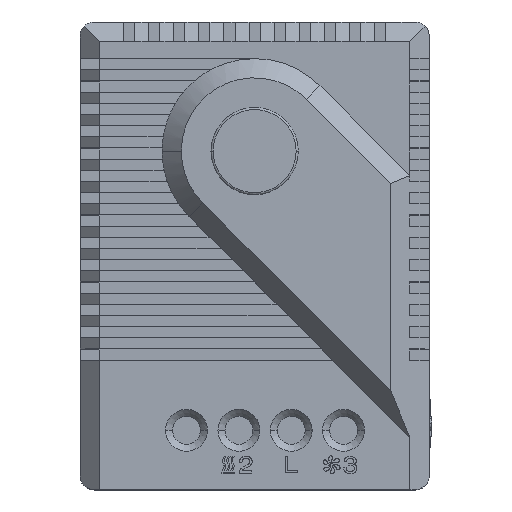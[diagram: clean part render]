
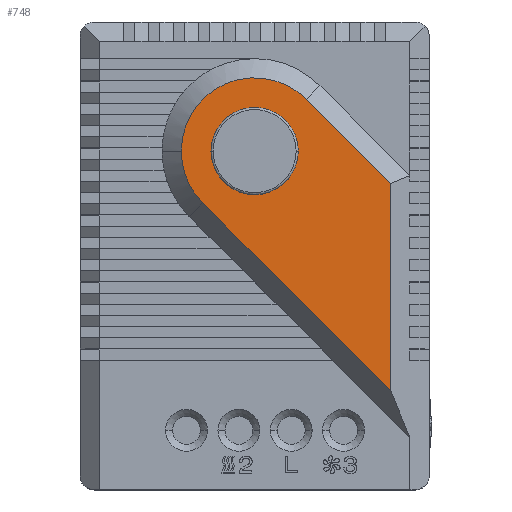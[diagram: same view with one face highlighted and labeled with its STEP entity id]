
A CAD part, top view. The second image highlights one B-rep face of the part: STEP entity #748.
In plain terms, the highlighted planar face has unit normal (0, 0, 1).
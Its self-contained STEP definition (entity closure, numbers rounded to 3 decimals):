
#748 = ADVANCED_FACE ( 'NONE', ( #9368, #9371 ), #4155, .T. ) ;
#1586 = ORIENTED_EDGE ( 'NONE', *, *, #22571, .F. ) ;
#1587 = ORIENTED_EDGE ( 'NONE', *, *, #4343, .F. ) ;
#1588 = ORIENTED_EDGE ( 'NONE', *, *, #22574, .T. ) ;
#1589 = ORIENTED_EDGE ( 'NONE', *, *, #4326, .T. ) ;
#1590 = ORIENTED_EDGE ( 'NONE', *, *, #22553, .T. ) ;
#1591 = ORIENTED_EDGE ( 'NONE', *, *, #22547, .T. ) ;
#1592 = ORIENTED_EDGE ( 'NONE', *, *, #22568, .F. ) ;
#2430 = AXIS2_PLACEMENT_3D ( 'NONE', #4151, #4146, #4158 ) ;
#2553 = AXIS2_PLACEMENT_3D ( 'NONE', #12421, #12422, #12423 ) ;
#2564 = AXIS2_PLACEMENT_3D ( 'NONE', #12465, #12467, #12469 ) ;
#2738 = AXIS2_PLACEMENT_3D ( 'NONE', #12425, #12426, #12427 ) ;
#2742 = AXIS2_PLACEMENT_3D ( 'NONE', #12518, #12519, #12521 ) ;
#4146 = DIRECTION ( 'NONE',  ( 0., 0., 1. ) ) ;
#4151 = CARTESIAN_POINT ( 'NONE',  ( 25., 32., 34. ) ) ;
#4155 = PLANE ( 'NONE',  #2430 ) ;
#4158 = DIRECTION ( 'NONE',  ( 1., 0., 0. ) ) ;
#4326 = EDGE_CURVE ( 'NONE', #6194, #21391, #10319, .T. ) ;
#4343 = EDGE_CURVE ( 'NONE', #5219, #5961, #10342, .T. ) ;
#5219 = VERTEX_POINT ( 'NONE', #13027 ) ;
#5244 = VERTEX_POINT ( 'NONE', #13070 ) ;
#5252 = VERTEX_POINT ( 'NONE', #13083 ) ;
#5256 = VERTEX_POINT ( 'NONE', #13090 ) ;
#5961 = VERTEX_POINT ( 'NONE', #7208 ) ;
#6194 = VERTEX_POINT ( 'NONE', #7441 ) ;
#7208 = CARTESIAN_POINT ( 'NONE',  ( 18.75, 32., 34. ) ) ;
#7441 = CARTESIAN_POINT ( 'NONE',  ( 14.5, 32., 34. ) ) ;
#8768 = LINE ( 'NONE', #12396, #8771 ) ;
#8771 = VECTOR ( 'NONE', #12399, 1000. ) ;
#8778 = CIRCLE ( 'NONE', #2738, 10.5 ) ;
#8796 = LINE ( 'NONE', #12485, #8801 ) ;
#8801 = VECTOR ( 'NONE', #12501, 1000. ) ;
#8804 = CIRCLE ( 'NONE', #2742, 6.25 ) ;
#8811 = LINE ( 'NONE', #12527, #8817 ) ;
#8817 = VECTOR ( 'NONE', #12530, 1000. ) ;
#9368 = FACE_OUTER_BOUND ( 'NONE', #24806, .T. ) ;
#9371 = FACE_BOUND ( 'NONE', #24807, .T. ) ;
#10319 = CIRCLE ( 'NONE', #2553, 10.5 ) ;
#10342 = CIRCLE ( 'NONE', #2564, 6.25 ) ;
#11470 = CARTESIAN_POINT ( 'NONE',  ( 17.575, 24.575, 34. ) ) ;
#12396 = CARTESIAN_POINT ( 'NONE',  ( 32.425, 39.425, 34. ) ) ;
#12399 = DIRECTION ( 'NONE',  ( -0.707, 0.707, 0. ) ) ;
#12421 = CARTESIAN_POINT ( 'NONE',  ( 25., 32., 34. ) ) ;
#12422 = DIRECTION ( 'NONE',  ( 0., 0., 1. ) ) ;
#12423 = DIRECTION ( 'NONE',  ( 1., 0., 0. ) ) ;
#12425 = CARTESIAN_POINT ( 'NONE',  ( 25., 32., 34. ) ) ;
#12426 = DIRECTION ( 'NONE',  ( 0., 0., 1. ) ) ;
#12427 = DIRECTION ( 'NONE',  ( 1., 0., 0. ) ) ;
#12465 = CARTESIAN_POINT ( 'NONE',  ( 25., 32., 34. ) ) ;
#12467 = DIRECTION ( 'NONE',  ( 0., 0., 1. ) ) ;
#12469 = DIRECTION ( 'NONE',  ( 1., 0., 0. ) ) ;
#12485 = CARTESIAN_POINT ( 'NONE',  ( 44.5, 50.501, 34. ) ) ;
#12501 = DIRECTION ( 'NONE',  ( 0., -1., 0. ) ) ;
#12518 = CARTESIAN_POINT ( 'NONE',  ( 25., 32., 34. ) ) ;
#12519 = DIRECTION ( 'NONE',  ( 0., 0., 1. ) ) ;
#12521 = DIRECTION ( 'NONE',  ( 1., 0., 0. ) ) ;
#12527 = CARTESIAN_POINT ( 'NONE',  ( 49.195, -7.044, 34. ) ) ;
#12530 = DIRECTION ( 'NONE',  ( 0.707, -0.707, 0. ) ) ;
#13027 = CARTESIAN_POINT ( 'NONE',  ( 31.25, 32., 34. ) ) ;
#13070 = CARTESIAN_POINT ( 'NONE',  ( 44.5, 27.349, 34. ) ) ;
#13083 = CARTESIAN_POINT ( 'NONE',  ( 44.5, -2.349, 34. ) ) ;
#13090 = CARTESIAN_POINT ( 'NONE',  ( 32.425, 39.425, 34. ) ) ;
#21391 = VERTEX_POINT ( 'NONE', #11470 ) ;
#22547 = EDGE_CURVE ( 'NONE', #5244, #5256, #8768, .T. ) ;
#22553 = EDGE_CURVE ( 'NONE', #5256, #6194, #8778, .T. ) ;
#22568 = EDGE_CURVE ( 'NONE', #5244, #5252, #8796, .T. ) ;
#22571 = EDGE_CURVE ( 'NONE', #5961, #5219, #8804, .T. ) ;
#22574 = EDGE_CURVE ( 'NONE', #21391, #5252, #8811, .T. ) ;
#24806 = EDGE_LOOP ( 'NONE', ( #1592, #1591, #1590, #1589, #1588 ) ) ;
#24807 = EDGE_LOOP ( 'NONE', ( #1587, #1586 ) ) ;
